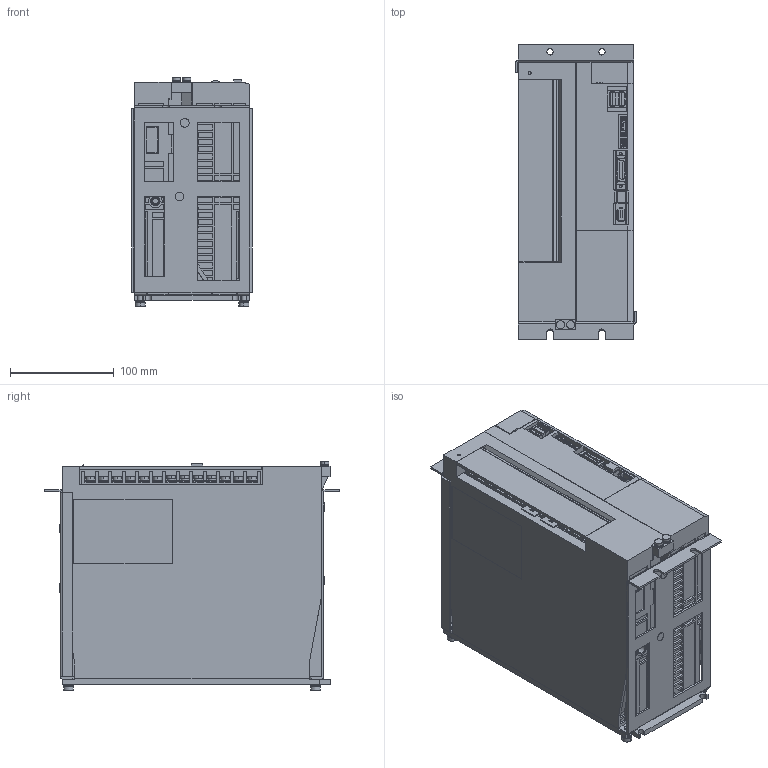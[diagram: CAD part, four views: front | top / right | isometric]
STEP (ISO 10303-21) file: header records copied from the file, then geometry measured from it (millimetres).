
FILE_DESCRIPTION (( 'STEP AP203' ), '1' );
FILE_NAME ('sgd7s_330a10a001.STEP', '2015-09-18T08:29:20', ( '匠エンジニアリング山之内' ), ( 'TAKUMI-Engniaring' ), 'SwSTEP 2.0', 'SolidWorks 2006303', '' );
FILE_SCHEMA (( 'CONFIG_CONTROL_DESIGN' ));
Products named in the file (9): sgd7s_330a10a001_cover; sgd7s_330a10a001_mount2; sgd7s_330a10a001; sgd7s_330a10a001_base; sgd7s_330a10a001_cover2; sgd7s_330a10a001_connector; sgd7s_330a10a001_cover3; sgd7s_330a10a001_terminal; sgd7s_330a10a001_mount1
Assembly tree (10 placements, depth 2):
  sgd7s_330a10a001
    sgd7s_330a10a001_cover2  x2
    sgd7s_330a10a001_terminal  x2
    sgd7s_330a10a001_cover
    sgd7s_330a10a001_mount2
    sgd7s_330a10a001_connector
    sgd7s_330a10a001_mount1
    sgd7s_330a10a001_cover3
    sgd7s_330a10a001_base
Bounding box: 116 x 285 x 220.6 mm (x, y, z)
Volume: 5543906.5 mm3; surface area: 359814.2 mm2
Topology: 10 solids, 10 shells, 2346 faces, 6035 edges, 3992 vertices
Faces by surface type: plane 1946, cylinder 395, cone 4, sphere 1
Entity records: 70192 total; most frequent: CARTESIAN_POINT 12153, ORIENTED_EDGE 11842, DIRECTION 11359, EDGE_CURVE 5921, VECTOR 5115, LINE 5115, VERTEX_POINT 3916, AXIS2_PLACEMENT_3D 3122
